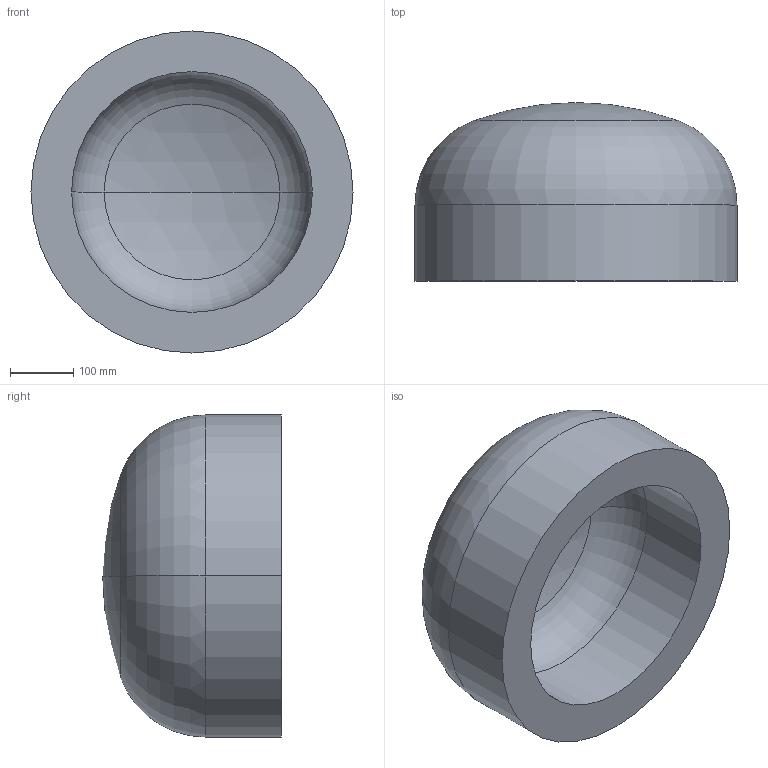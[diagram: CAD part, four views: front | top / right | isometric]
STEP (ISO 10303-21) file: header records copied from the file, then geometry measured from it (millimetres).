
FILE_DESCRIPTION (( 'STEP AP203' ), '1' );
FILE_NAME ('DIN 28013 Korbbogenform_-_Boden DIN 28013 - 508 x 120 - I - s=64.step', '2016-07-01T07:56:21', ( '' ), ( '' ), 'SwSTEP 2.0', 'SolidWorks 2013', '' );
FILE_SCHEMA (( 'CONFIG_CONTROL_DESIGN' ));
Length unit declared in the file: millimetre
Products named in the file (1): DIN 28013 Korbbogenform_-_Boden DIN 28013 - 508 x 120 - I - s=64
Bounding box: 508 x 281.71 x 508 mm (x, y, z)
Volume: 26115470.2 mm3; surface area: 913958.5 mm2
Topology: 1 solids, 1 shells, 13 faces, 24 edges, 14 vertices
Faces by surface type: torus 4, cylinder 4, sphere 4, plane 1
Entity records: 407 total; most frequent: DIRECTION 72, CARTESIAN_POINT 52, ORIENTED_EDGE 48, AXIS2_PLACEMENT_3D 34, EDGE_CURVE 24, CIRCLE 20, VERTEX_POINT 14, EDGE_LOOP 14
